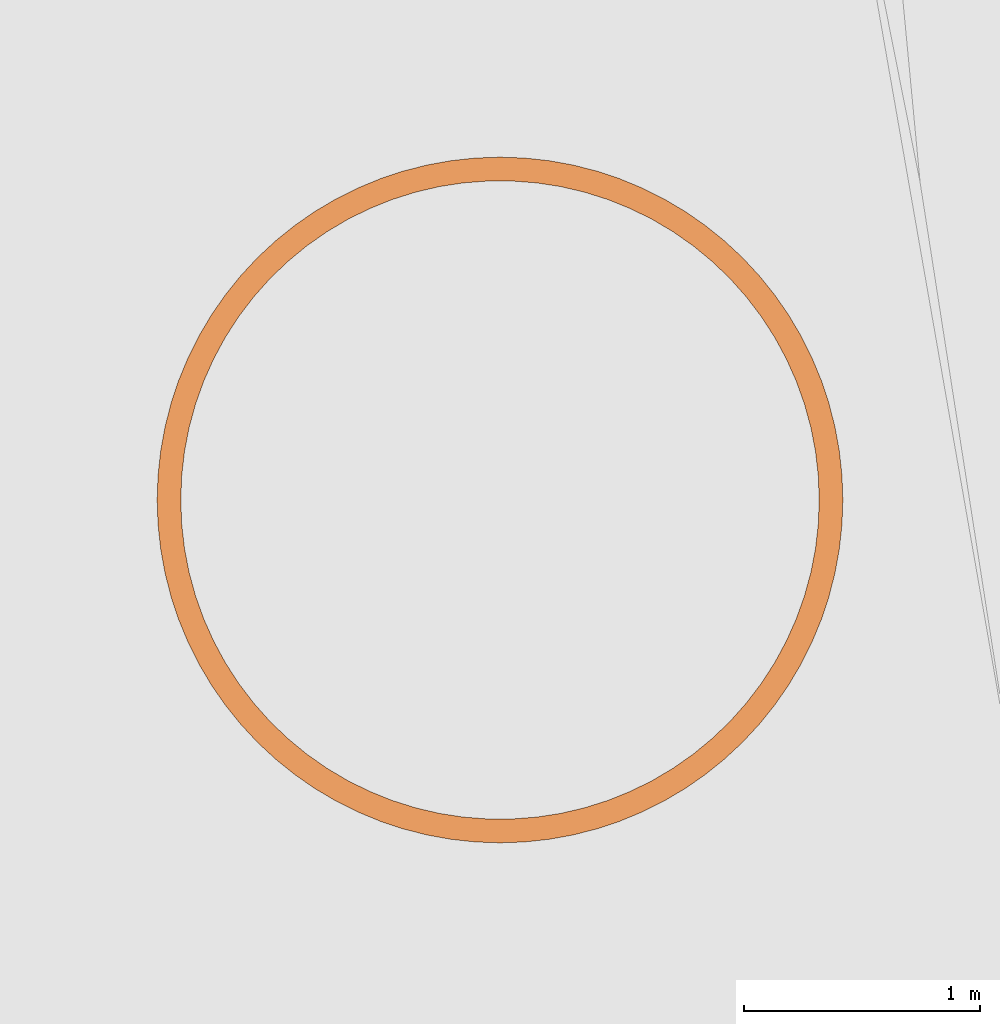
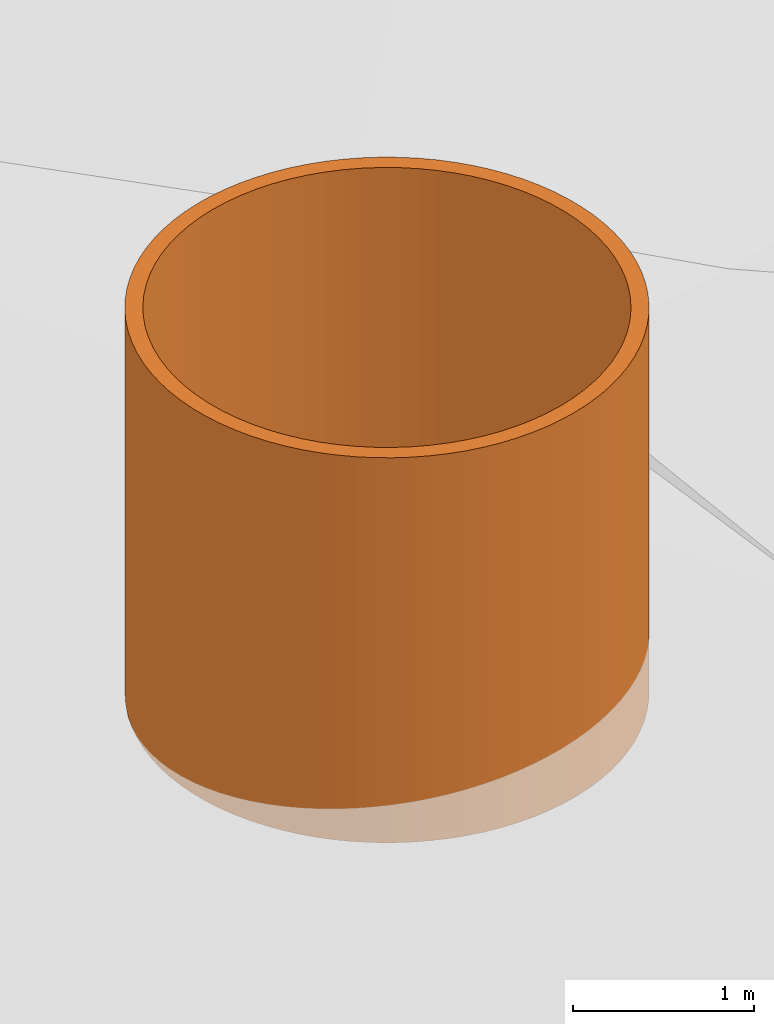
# One storey, part 241 of 246: 1 proxy.
"""IFC2X3 building model written with IfcOpenShell, lengths in millimetres."""

from ifc_helpers import new_model, entity, si_unit, converted_unit, derived_unit, money_unit, direction, frame, origin_with_axes, place, context, subcontext, project, spatial, faceted_brep, material, type_object, element, save


model = new_model("IFC2X3")

# Units and contexts
model_context = context("Model", 3, precision=0.01, world=origin_with_axes(), true_north=direction((0.0, 1.0)))
body_context = subcontext(model_context, "Body", "Model", "MODEL_VIEW")
ifc_project = project(units=[si_unit("LENGTHUNIT", "METRE", prefix="MILLI"), si_unit("AREAUNIT", "SQUARE_METRE"), si_unit("VOLUMEUNIT", "CUBIC_METRE"), converted_unit("PLANEANGLEUNIT", "DEGREE", entity("IfcPlaneAngleMeasure", 0.0174532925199), si_unit("PLANEANGLEUNIT", "RADIAN"), dimensions=[0, 0, 0, 0, 0, 0, 0]), si_unit("SOLIDANGLEUNIT", "STERADIAN"), money_unit("EUR"), converted_unit("TIMEUNIT", "Year", entity("IfcTimeMeasure", 31556926.0), si_unit("TIMEUNIT", "SECOND"), dimensions=[0, 0, 1, 0, 0, 0, 0]), si_unit("MASSUNIT", "GRAM", prefix="KILO"), si_unit("THERMODYNAMICTEMPERATUREUNIT", "DEGREE_CELSIUS"), si_unit("LUMINOUSINTENSITYUNIT", "LUMEN"), si_unit("ENERGYUNIT", "JOULE", prefix="MEGA"), derived_unit("THERMALCONDUCTANCEUNIT", [(si_unit("POWERUNIT", "WATT"), 1), (si_unit("LENGTHUNIT", "METRE"), -1), (si_unit("THERMODYNAMICTEMPERATUREUNIT", "KELVIN"), -1)]), derived_unit("SPECIFICHEATCAPACITYUNIT", [(si_unit("ENERGYUNIT", "JOULE"), 1), (si_unit("MASSUNIT", "GRAM", prefix="KILO"), -1), (si_unit("THERMODYNAMICTEMPERATUREUNIT", "KELVIN"), -1)]), derived_unit("MASSDENSITYUNIT", [(si_unit("MASSUNIT", "GRAM", prefix="KILO"), 1), (si_unit("VOLUMEUNIT", "CUBIC_METRE"), -1)])], contexts=[model_context])

# Site, building, storey
site_placement = place(None, origin_with_axes())
site = spatial("IfcSite", under=ifc_project, at=site_placement, Name="L.Koidula tn 11b", CompositionType="ELEMENT")
building_placement = place(site_placement, origin_with_axes())
building = spatial("IfcBuilding", under=site, at=building_placement, Name="Rakvere Riigigümnaasium", CompositionType="ELEMENT")
storey_placement = place(building_placement, origin_with_axes())
storey = spatial("IfcBuildingStorey", under=building, at=storey_placement, Name="1.korrus 0,00", CompositionType="ELEMENT", Elevation=0.0)

# Proxy
ifc_material = material(Name="Alumiiniumprofiil (RAL 7021)")
building_element_proxy_type = type_object("IfcBuildingElementProxyType", Name="Air Space D2900", PredefinedType="NOTDEFINED")
proxy_placement = place(storey_placement, frame((77617.2251136, 39590.918784, 1945.44560346), z_axis=(0.0, 0.0, 1.0), x_axis=(1.0, 0.0, 0.0)))
element("IfcBuildingElementProxy", 1, at=proxy_placement, inside=storey, type_object=building_element_proxy_type, material=ifc_material, Name="Ventilatsiooni korsten", context=body_context, shape_type="Brep", body=[
    faceted_brep([(-1450.0, 0.0, 0.0), (-1446.30556618, -103.441815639, 0.0), (-1446.30556618, -103.441815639, 2600.0), (-1450.0, 0.0, 2600.0), (-1446.30556618, 103.441815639, 0.0), (-1435.24109073, 206.356515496, 0.0), (-1416.86295566, 308.219669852, 0.0), (-1391.26481174, 408.51220742, 0.0), (-1358.57710125, 506.723060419, 0.0), (-1318.96639326, 602.351768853, 0.0), (-1272.63453487, 694.911030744, 0.0), (-1219.81762261, 783.929185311, 0.0), (-1160.78479934, 868.952616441, 0.0), (-1095.83688281, 949.548064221, 0.0), (-1025.30483272, 1025.30483272, 0.0), (-949.548064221, 1095.83688281, 0.0), (-868.952616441, 1160.78479934, 0.0), (-783.929185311, 1219.81762261, 0.0), (-694.911030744, 1272.63453487, 0.0), (-602.351768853, 1318.96639326, 0.0), (-506.723060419, 1358.57710125, 0.0), (-408.51220742, 1391.26481174, 0.0), (-308.219669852, 1416.86295566, 0.0), (-206.356515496, 1435.24109073, 0.0), (-103.441815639, 1446.30556618, 0.0), (0.0, 1450.0, 0.0), (103.441815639, 1446.30556618, 0.0), (206.356515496, 1435.24109073, 0.0), (308.219669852, 1416.86295566, 0.0), (408.51220742, 1391.26481174, 0.0), (506.723060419, 1358.57710125, 0.0), (602.351768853, 1318.96639326, 0.0), (694.911030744, 1272.63453487, 0.0), (783.929185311, 1219.81762261, 0.0), (868.952616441, 1160.78479934, 0.0), (949.548064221, 1095.83688281, 0.0), (1025.30483272, 1025.30483272, 0.0), (1095.83688281, 949.548064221, 0.0), (1160.78479934, 868.952616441, 0.0), (1219.81762261, 783.929185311, 0.0), (1272.63453487, 694.911030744, 0.0), (1318.96639326, 602.351768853, 0.0), (1358.57710125, 506.723060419, 0.0), (1391.26481174, 408.51220742, 0.0), (1416.86295566, 308.219669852, 0.0), (1435.24109073, 206.356515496, 0.0), (1446.30556618, 103.441815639, 0.0), (1450.0, 0.0, 0.0), (1446.30556618, -103.441815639, 0.0), (1435.24109073, -206.356515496, 0.0), (1416.86295566, -308.219669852, 0.0), (1391.26481174, -408.51220742, 0.0), (1358.57710125, -506.723060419, 0.0), (1318.96639326, -602.351768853, 0.0), (1272.63453487, -694.911030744, 0.0), (1219.81762261, -783.929185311, 0.0), (1160.78479934, -868.952616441, 0.0), (1095.83688281, -949.548064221, 0.0), (1025.30483272, -1025.30483272, 0.0), (949.548064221, -1095.83688281, 0.0), (868.952616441, -1160.78479934, 0.0), (783.929185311, -1219.81762261, 0.0), (694.911030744, -1272.63453487, 0.0), (602.351768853, -1318.96639326, 0.0), (506.723060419, -1358.57710125, 0.0), (408.51220742, -1391.26481174, 0.0), (308.219669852, -1416.86295566, 0.0), (206.356515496, -1435.24109073, 0.0), (103.441815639, -1446.30556618, 0.0), (0.0, -1450.0, 0.0), (-103.441815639, -1446.30556618, 0.0), (-206.356515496, -1435.24109073, 0.0), (-308.219669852, -1416.86295566, 0.0), (-408.51220742, -1391.26481174, 0.0), (-506.723060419, -1358.57710125, 0.0), (-602.351768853, -1318.96639326, 0.0), (-694.911030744, -1272.63453487, 0.0), (-783.929185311, -1219.81762261, 0.0), (-868.952616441, -1160.78479934, 0.0), (-949.548064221, -1095.83688281, 0.0), (-1025.30483272, -1025.30483272, 0.0), (-1095.83688281, -949.548064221, 0.0), (-1160.78479934, -868.952616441, 0.0), (-1219.81762261, -783.929185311, 0.0), (-1272.63453487, -694.911030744, 0.0), (-1318.96639326, -602.351768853, 0.0), (-1358.57710125, -506.723060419, 0.0), (-1391.26481174, -408.51220742, 0.0), (-1416.86295566, -308.219669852, 0.0), (-1435.24109073, -206.356515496, 0.0), (-1350.0, 0.0, 0.0), (-1346.0388316, -103.341491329, 0.0), (-1334.1785721, -206.076533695, 0.0), (-1314.48882224, -307.602237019, 0.0), (-1287.08512927, -407.322808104, 0.0), (-1252.12830899, -504.653046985, 0.0), (-1209.8235019, -599.02178112, 0.0), (-1160.41896943, -689.875217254, 0.0), (-1104.20463704, -776.680191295, 0.0), (-1041.51039276, -858.927297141, 0.0), (-972.704151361, -936.13387607, 0.0), (-898.189695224, -1007.84684918, 0.0), (-818.404304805, -1073.64537622, 0.0), (-733.816192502, -1133.14332528, 0.0), (-644.921754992, -1185.99153873, 0.0), (-552.242660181, -1231.87988224, 0.0), (-456.322785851, -1270.53906477, 0.0), (-357.725027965, -1301.74221886, 0.0), (-257.027997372, -1325.306232, 0.0), (-154.822624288, -1341.09282118, 0.0), (-51.7086904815, -1349.00934442, 0.0), (51.7086904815, -1349.00934442, 0.0), (154.822624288, -1341.09282118, 0.0), (257.027997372, -1325.306232, 0.0), (357.725027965, -1301.74221886, 0.0), (456.322785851, -1270.53906477, 0.0), (552.242660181, -1231.87988224, 0.0), (644.921754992, -1185.99153873, 0.0), (733.816192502, -1133.14332528, 0.0), (818.404304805, -1073.64537622, 0.0), (898.189695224, -1007.84684918, 0.0), (972.704151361, -936.13387607, 0.0), (1041.51039276, -858.927297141, 0.0), (1104.20463704, -776.680191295, 0.0), (1160.41896943, -689.875217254, 0.0), (1209.8235019, -599.02178112, 0.0), (1252.12830899, -504.653046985, 0.0), (1287.08512927, -407.322808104, 0.0), (1314.48882224, -307.602237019, 0.0), (1334.1785721, -206.076533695, 0.0), (1346.0388316, -103.341491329, 0.0), (1350.0, 0.0, 0.0), (1346.0388316, 103.341491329, 0.0), (1334.1785721, 206.076533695, 0.0), (1314.48882224, 307.602237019, 0.0), (1287.08512927, 407.322808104, 0.0), (1252.12830899, 504.653046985, 0.0), (1209.8235019, 599.02178112, 0.0), (1160.41896943, 689.875217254, 0.0), (1104.20463704, 776.680191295, 0.0), (1041.51039276, 858.927297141, 0.0), (972.704151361, 936.13387607, 0.0), (898.189695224, 1007.84684918, 0.0), (818.404304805, 1073.64537622, 0.0), (733.816192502, 1133.14332528, 0.0), (644.921754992, 1185.99153873, 0.0), (552.242660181, 1231.87988224, 0.0), (456.322785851, 1270.53906477, 0.0), (357.725027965, 1301.74221886, 0.0), (257.027997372, 1325.306232, 0.0), (154.822624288, 1341.09282118, 0.0), (51.7086904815, 1349.00934442, 0.0), (-51.7086904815, 1349.00934442, 0.0), (-154.822624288, 1341.09282118, 0.0), (-257.027997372, 1325.306232, 0.0), (-357.725027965, 1301.74221886, 0.0), (-456.322785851, 1270.53906477, 0.0), (-552.242660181, 1231.87988224, 0.0), (-644.921754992, 1185.99153873, 0.0), (-733.816192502, 1133.14332528, 0.0), (-818.404304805, 1073.64537622, 0.0), (-898.189695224, 1007.84684918, 0.0), (-972.704151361, 936.13387607, 0.0), (-1041.51039276, 858.927297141, 0.0), (-1104.20463704, 776.680191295, 0.0), (-1160.41896943, 689.875217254, 0.0), (-1209.8235019, 599.02178112, 0.0), (-1252.12830899, 504.653046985, 0.0), (-1287.08512927, 407.322808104, 0.0), (-1314.48882224, 307.602237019, 0.0), (-1334.1785721, 206.076533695, 0.0), (-1346.0388316, 103.341491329, 0.0), (-1435.24109073, -206.356515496, 2600.0), (-1416.86295566, -308.219669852, 2600.0), (-1391.26481174, -408.51220742, 2600.0), (-1358.57710125, -506.723060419, 2600.0), (-1318.96639326, -602.351768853, 2600.0), (-1272.63453487, -694.911030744, 2600.0), (-1219.81762261, -783.929185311, 2600.0), (-1160.78479934, -868.952616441, 2600.0), (-1095.83688281, -949.548064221, 2600.0), (-1025.30483272, -1025.30483272, 2600.0), (-949.548064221, -1095.83688281, 2600.0), (-868.952616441, -1160.78479934, 2600.0), (-783.929185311, -1219.81762261, 2600.0), (-694.911030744, -1272.63453487, 2600.0), (-602.351768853, -1318.96639326, 2600.0), (-506.723060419, -1358.57710125, 2600.0), (-408.51220742, -1391.26481174, 2600.0), (-308.219669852, -1416.86295566, 2600.0), (-206.356515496, -1435.24109073, 2600.0), (-103.441815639, -1446.30556618, 2600.0), (0.0, -1450.0, 2600.0), (103.441815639, -1446.30556618, 2600.0), (206.356515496, -1435.24109073, 2600.0), (308.219669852, -1416.86295566, 2600.0), (408.51220742, -1391.26481174, 2600.0), (506.723060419, -1358.57710125, 2600.0), (602.351768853, -1318.96639326, 2600.0), (694.911030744, -1272.63453487, 2600.0), (783.929185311, -1219.81762261, 2600.0), (868.952616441, -1160.78479934, 2600.0), (949.548064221, -1095.83688281, 2600.0), (1025.30483272, -1025.30483272, 2600.0), (1095.83688281, -949.548064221, 2600.0), (1160.78479934, -868.952616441, 2600.0), (1219.81762261, -783.929185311, 2600.0), (1272.63453487, -694.911030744, 2600.0), (1318.96639326, -602.351768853, 2600.0), (1358.57710125, -506.723060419, 2600.0), (1391.26481174, -408.51220742, 2600.0), (1416.86295566, -308.219669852, 2600.0), (1435.24109073, -206.356515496, 2600.0), (1446.30556618, -103.441815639, 2600.0), (1450.0, 0.0, 2600.0), (1446.30556618, 103.441815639, 2600.0), (1435.24109073, 206.356515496, 2600.0), (1416.86295566, 308.219669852, 2600.0), (1391.26481174, 408.51220742, 2600.0), (1358.57710125, 506.723060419, 2600.0), (1318.96639326, 602.351768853, 2600.0), (1272.63453487, 694.911030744, 2600.0), (1219.81762261, 783.929185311, 2600.0), (1160.78479934, 868.952616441, 2600.0), (1095.83688281, 949.548064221, 2600.0), (1025.30483272, 1025.30483272, 2600.0), (949.548064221, 1095.83688281, 2600.0), (868.952616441, 1160.78479934, 2600.0), (783.929185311, 1219.81762261, 2600.0), (694.911030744, 1272.63453487, 2600.0), (602.351768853, 1318.96639326, 2600.0), (506.723060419, 1358.57710125, 2600.0), (408.51220742, 1391.26481174, 2600.0), (308.219669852, 1416.86295566, 2600.0), (206.356515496, 1435.24109073, 2600.0), (103.441815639, 1446.30556618, 2600.0), (0.0, 1450.0, 2600.0), (-103.441815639, 1446.30556618, 2600.0), (-206.356515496, 1435.24109073, 2600.0), (-308.219669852, 1416.86295566, 2600.0), (-408.51220742, 1391.26481174, 2600.0), (-506.723060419, 1358.57710125, 2600.0), (-602.351768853, 1318.96639326, 2600.0), (-694.911030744, 1272.63453487, 2600.0), (-783.929185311, 1219.81762261, 2600.0), (-868.952616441, 1160.78479934, 2600.0), (-949.548064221, 1095.83688281, 2600.0), (-1025.30483272, 1025.30483272, 2600.0), (-1095.83688281, 949.548064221, 2600.0), (-1160.78479934, 868.952616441, 2600.0), (-1219.81762261, 783.929185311, 2600.0), (-1272.63453487, 694.911030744, 2600.0), (-1318.96639326, 602.351768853, 2600.0), (-1358.57710125, 506.723060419, 2600.0), (-1391.26481174, 408.51220742, 2600.0), (-1416.86295566, 308.219669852, 2600.0), (-1435.24109073, 206.356515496, 2600.0), (-1446.30556618, 103.441815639, 2600.0), (-1350.0, 0.0, 2600.0), (-1346.0388316, 103.341491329, 2600.0), (-1334.1785721, 206.076533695, 2600.0), (-1314.48882224, 307.602237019, 2600.0), (-1287.08512927, 407.322808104, 2600.0), (-1252.12830899, 504.653046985, 2600.0), (-1209.8235019, 599.02178112, 2600.0), (-1160.41896943, 689.875217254, 2600.0), (-1104.20463704, 776.680191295, 2600.0), (-1041.51039276, 858.927297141, 2600.0), (-972.704151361, 936.13387607, 2600.0), (-898.189695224, 1007.84684918, 2600.0), (-818.404304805, 1073.64537622, 2600.0), (-733.816192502, 1133.14332528, 2600.0), (-644.921754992, 1185.99153873, 2600.0), (-552.242660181, 1231.87988224, 2600.0), (-456.322785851, 1270.53906477, 2600.0), (-357.725027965, 1301.74221886, 2600.0), (-257.027997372, 1325.306232, 2600.0), (-154.822624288, 1341.09282118, 2600.0), (-51.7086904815, 1349.00934442, 2600.0), (51.7086904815, 1349.00934442, 2600.0), (154.822624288, 1341.09282118, 2600.0), (257.027997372, 1325.306232, 2600.0), (357.725027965, 1301.74221886, 2600.0), (456.322785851, 1270.53906477, 2600.0), (552.242660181, 1231.87988224, 2600.0), (644.921754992, 1185.99153873, 2600.0), (733.816192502, 1133.14332528, 2600.0), (818.404304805, 1073.64537622, 2600.0), (898.189695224, 1007.84684918, 2600.0), (972.704151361, 936.13387607, 2600.0), (1041.51039276, 858.927297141, 2600.0), (1104.20463704, 776.680191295, 2600.0), (1160.41896943, 689.875217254, 2600.0), (1209.8235019, 599.02178112, 2600.0), (1252.12830899, 504.653046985, 2600.0), (1287.08512927, 407.322808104, 2600.0), (1314.48882224, 307.602237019, 2600.0), (1334.1785721, 206.076533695, 2600.0), (1346.0388316, 103.341491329, 2600.0), (1350.0, 0.0, 2600.0), (1346.0388316, -103.341491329, 2600.0), (1334.1785721, -206.076533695, 2600.0), (1314.48882224, -307.602237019, 2600.0), (1287.08512927, -407.322808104, 2600.0), (1252.12830899, -504.653046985, 2600.0), (1209.8235019, -599.02178112, 2600.0), (1160.41896943, -689.875217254, 2600.0), (1104.20463704, -776.680191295, 2600.0), (1041.51039276, -858.927297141, 2600.0), (972.704151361, -936.13387607, 2600.0), (898.189695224, -1007.84684918, 2600.0), (818.404304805, -1073.64537622, 2600.0), (733.816192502, -1133.14332528, 2600.0), (644.921754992, -1185.99153873, 2600.0), (552.242660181, -1231.87988224, 2600.0), (456.322785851, -1270.53906477, 2600.0), (357.725027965, -1301.74221886, 2600.0), (257.027997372, -1325.306232, 2600.0), (154.822624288, -1341.09282118, 2600.0), (51.7086904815, -1349.00934442, 2600.0), (-51.7086904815, -1349.00934442, 2600.0), (-154.822624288, -1341.09282118, 2600.0), (-257.027997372, -1325.306232, 2600.0), (-357.725027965, -1301.74221886, 2600.0), (-456.322785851, -1270.53906477, 2600.0), (-552.242660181, -1231.87988224, 2600.0), (-644.921754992, -1185.99153873, 2600.0), (-733.816192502, -1133.14332528, 2600.0), (-818.404304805, -1073.64537622, 2600.0), (-898.189695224, -1007.84684918, 2600.0), (-972.704151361, -936.13387607, 2600.0), (-1041.51039276, -858.927297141, 2600.0), (-1104.20463704, -776.680191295, 2600.0), (-1160.41896943, -689.875217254, 2600.0), (-1209.8235019, -599.02178112, 2600.0), (-1252.12830899, -504.653046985, 2600.0), (-1287.08512927, -407.322808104, 2600.0), (-1314.48882224, -307.602237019, 2600.0), (-1334.1785721, -206.076533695, 2600.0), (-1346.0388316, -103.341491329, 2600.0)], [[[0, 1, 2, 3]], [[0, 4, 5, 6, 7, 8, 9, 10, 11, 12, 13, 14, 15, 16, 17, 18, 19, 20, 21, 22, 23, 24, 25, 26, 27, 28, 29, 30, 31, 32, 33, 34, 35, 36, 37, 38, 39, 40, 41, 42, 43, 44, 45, 46, 47, 48, 49, 50, 51, 52, 53, 54, 55, 56, 57, 58, 59, 60, 61, 62, 63, 64, 65, 66, 67, 68, 69, 70, 71, 72, 73, 74, 75, 76, 77, 78, 79, 80, 81, 82, 83, 84, 85, 86, 87, 88, 89, 1], [90, 91, 92, 93, 94, 95, 96, 97, 98, 99, 100, 101, 102, 103, 104, 105, 106, 107, 108, 109, 110, 111, 112, 113, 114, 115, 116, 117, 118, 119, 120, 121, 122, 123, 124, 125, 126, 127, 128, 129, 130, 131, 132, 133, 134, 135, 136, 137, 138, 139, 140, 141, 142, 143, 144, 145, 146, 147, 148, 149, 150, 151, 152, 153, 154, 155, 156, 157, 158, 159, 160, 161, 162, 163, 164, 165, 166, 167, 168, 169, 170, 171]], [[1, 89, 172, 2]], [[3, 2, 172, 173, 174, 175, 176, 177, 178, 179, 180, 181, 182, 183, 184, 185, 186, 187, 188, 189, 190, 191, 192, 193, 194, 195, 196, 197, 198, 199, 200, 201, 202, 203, 204, 205, 206, 207, 208, 209, 210, 211, 212, 213, 214, 215, 216, 217, 218, 219, 220, 221, 222, 223, 224, 225, 226, 227, 228, 229, 230, 231, 232, 233, 234, 235, 236, 237, 238, 239, 240, 241, 242, 243, 244, 245, 246, 247, 248, 249, 250, 251, 252, 253, 254, 255, 256, 257], [258, 259, 260, 261, 262, 263, 264, 265, 266, 267, 268, 269, 270, 271, 272, 273, 274, 275, 276, 277, 278, 279, 280, 281, 282, 283, 284, 285, 286, 287, 288, 289, 290, 291, 292, 293, 294, 295, 296, 297, 298, 299, 300, 301, 302, 303, 304, 305, 306, 307, 308, 309, 310, 311, 312, 313, 314, 315, 316, 317, 318, 319, 320, 321, 322, 323, 324, 325, 326, 327, 328, 329, 330, 331, 332, 333, 334, 335, 336, 337, 338, 339]], [[4, 0, 3, 257]], [[5, 4, 257, 256]], [[6, 5, 256, 255]], [[7, 6, 255, 254]], [[8, 7, 254, 253]], [[9, 8, 253, 252]], [[10, 9, 252, 251]], [[11, 10, 251, 250]], [[12, 11, 250, 249]], [[13, 12, 249, 248]], [[14, 13, 248, 247]], [[15, 14, 247, 246]], [[16, 15, 246, 245]], [[17, 16, 245, 244]], [[18, 17, 244, 243]], [[19, 18, 243, 242]], [[20, 19, 242, 241]], [[21, 20, 241, 240]], [[22, 21, 240, 239]], [[23, 22, 239, 238]], [[24, 23, 238, 237]], [[25, 24, 237, 236]], [[26, 25, 236, 235]], [[27, 26, 235, 234]], [[28, 27, 234, 233]], [[29, 28, 233, 232]], [[30, 29, 232, 231]], [[31, 30, 231, 230]], [[32, 31, 230, 229]], [[33, 32, 229, 228]], [[34, 33, 228, 227]], [[35, 34, 227, 226]], [[36, 35, 226, 225]], [[37, 36, 225, 224]], [[38, 37, 224, 223]], [[39, 38, 223, 222]], [[40, 39, 222, 221]], [[41, 40, 221, 220]], [[42, 41, 220, 219]], [[43, 42, 219, 218]], [[44, 43, 218, 217]], [[45, 44, 217, 216]], [[46, 45, 216, 215]], [[47, 46, 215, 214]], [[48, 47, 214, 213]], [[49, 48, 213, 212]], [[50, 49, 212, 211]], [[51, 50, 211, 210]], [[52, 51, 210, 209]], [[53, 52, 209, 208]], [[54, 53, 208, 207]], [[55, 54, 207, 206]], [[56, 55, 206, 205]], [[57, 56, 205, 204]], [[58, 57, 204, 203]], [[59, 58, 203, 202]], [[60, 59, 202, 201]], [[61, 60, 201, 200]], [[62, 61, 200, 199]], [[63, 62, 199, 198]], [[64, 63, 198, 197]], [[65, 64, 197, 196]], [[66, 65, 196, 195]], [[67, 66, 195, 194]], [[68, 67, 194, 193]], [[69, 68, 193, 192]], [[70, 69, 192, 191]], [[71, 70, 191, 190]], [[72, 71, 190, 189]], [[73, 72, 189, 188]], [[74, 73, 188, 187]], [[75, 74, 187, 186]], [[76, 75, 186, 185]], [[77, 76, 185, 184]], [[78, 77, 184, 183]], [[79, 78, 183, 182]], [[80, 79, 182, 181]], [[81, 80, 181, 180]], [[82, 81, 180, 179]], [[83, 82, 179, 178]], [[84, 83, 178, 177]], [[85, 84, 177, 176]], [[86, 85, 176, 175]], [[87, 86, 175, 174]], [[88, 87, 174, 173]], [[89, 88, 173, 172]], [[91, 90, 258, 339]], [[92, 91, 339, 338]], [[93, 92, 338, 337]], [[94, 93, 337, 336]], [[95, 94, 336, 335]], [[96, 95, 335, 334]], [[97, 96, 334, 333]], [[98, 97, 333, 332]], [[99, 98, 332, 331]], [[100, 99, 331, 330]], [[101, 100, 330, 329]], [[102, 101, 329, 328]], [[103, 102, 328, 327]], [[104, 103, 327, 326]], [[105, 104, 326, 325]], [[106, 105, 325, 324]], [[107, 106, 324, 323]], [[108, 107, 323, 322]], [[109, 108, 322, 321]], [[110, 109, 321, 320]], [[111, 110, 320, 319]], [[112, 111, 319, 318]], [[113, 112, 318, 317]], [[114, 113, 317, 316]], [[115, 114, 316, 315]], [[116, 115, 315, 314]], [[117, 116, 314, 313]], [[118, 117, 313, 312]], [[119, 118, 312, 311]], [[120, 119, 311, 310]], [[121, 120, 310, 309]], [[122, 121, 309, 308]], [[123, 122, 308, 307]], [[124, 123, 307, 306]], [[125, 124, 306, 305]], [[126, 125, 305, 304]], [[127, 126, 304, 303]], [[128, 127, 303, 302]], [[129, 128, 302, 301]], [[130, 129, 301, 300]], [[131, 130, 300, 299]], [[132, 131, 299, 298]], [[133, 132, 298, 297]], [[134, 133, 297, 296]], [[135, 134, 296, 295]], [[136, 135, 295, 294]], [[137, 136, 294, 293]], [[138, 137, 293, 292]], [[139, 138, 292, 291]], [[140, 139, 291, 290]], [[141, 140, 290, 289]], [[142, 141, 289, 288]], [[143, 142, 288, 287]], [[144, 143, 287, 286]], [[145, 144, 286, 285]], [[146, 145, 285, 284]], [[147, 146, 284, 283]], [[148, 147, 283, 282]], [[149, 148, 282, 281]], [[150, 149, 281, 280]], [[151, 150, 280, 279]], [[152, 151, 279, 278]], [[153, 152, 278, 277]], [[154, 153, 277, 276]], [[155, 154, 276, 275]], [[156, 155, 275, 274]], [[157, 156, 274, 273]], [[158, 157, 273, 272]], [[159, 158, 272, 271]], [[160, 159, 271, 270]], [[161, 160, 270, 269]], [[162, 161, 269, 268]], [[163, 162, 268, 267]], [[164, 163, 267, 266]], [[165, 164, 266, 265]], [[166, 165, 265, 264]], [[167, 166, 264, 263]], [[168, 167, 263, 262]], [[169, 168, 262, 261]], [[170, 169, 261, 260]], [[171, 170, 260, 259]], [[90, 171, 259, 258]]]),
])

save(model, "model.ifc")
